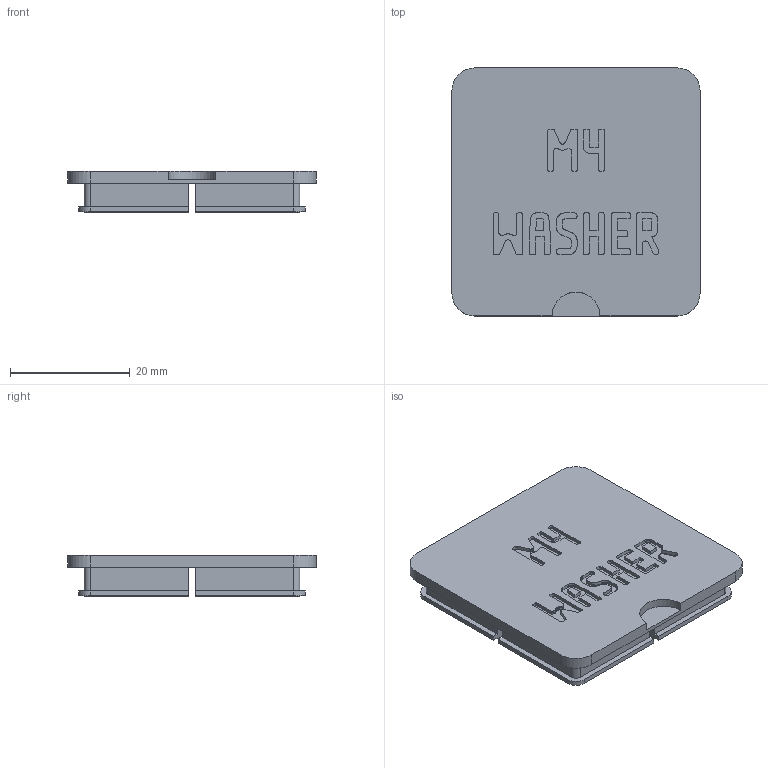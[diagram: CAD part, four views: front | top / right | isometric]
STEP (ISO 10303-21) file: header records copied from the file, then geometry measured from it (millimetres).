
FILE_DESCRIPTION(('Open CASCADE Model'),'2;1');
FILE_NAME('Open CASCADE Shape Model','2026-11-03T17:10:42',('Author'),( 'Open CASCADE'),'Open CASCADE STEP processor 8.0','build123d', 'Unknown');
FILE_SCHEMA(('AUTOMOTIVE_DESIGN { 1 0 10303 214 1 1 1 1 }'));
Products named in the file (1): COMPOUND
Bounding box: 41.5 x 41.5 x 6.9 mm (x, y, z)
Volume: 4193.3 mm3; surface area: 5523.9 mm2
Topology: 1 solids, 1 shells, 911 faces, 2694 edges, 1796 vertices
Faces by surface type: plane 890, cylinder 21
Entity records: 64774 total; most frequent: CARTESIAN_POINT 11146, DIRECTION 9752, LINE 7834, VECTOR 7834, ORIENTED_EDGE 5388, PCURVE 5388, DEFINITIONAL_REPRESENTATION 5388, EDGE_CURVE 2694
